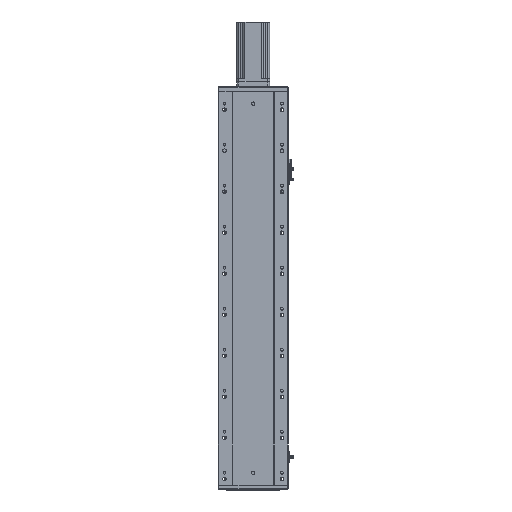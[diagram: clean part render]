
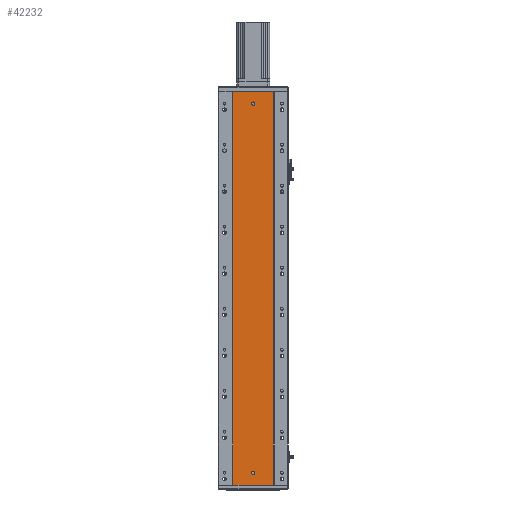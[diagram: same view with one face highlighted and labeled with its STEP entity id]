
A CAD part, front view. The second image highlights one B-rep face of the part: STEP entity #42232.
In plain terms, the highlighted planar face has unit normal (0, -1, 0).
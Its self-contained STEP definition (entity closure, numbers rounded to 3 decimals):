
#138 = ORIENTED_EDGE ( 'NONE', *, *, #33743, .F. ) ;
#353 = FACE_OUTER_BOUND ( 'NONE', #14781, .T. ) ;
#3615 = CARTESIAN_POINT ( 'NONE',  ( 0., 79.476, 0. ) ) ;
#3934 = DIRECTION ( 'NONE',  ( 0., 0., -1. ) ) ;
#4540 = AXIS2_PLACEMENT_3D ( 'NONE', #54536, #37644, #9053 ) ;
#4953 = B_SPLINE_CURVE_WITH_KNOTS ( 'NONE', 3,
 ( #33627, #73243, #17644, #6282 ),
 .UNSPECIFIED., .F., .F.,
 ( 4, 4 ),
 ( 0., 1. ),
 .UNSPECIFIED. ) ;
#5054 = CARTESIAN_POINT ( 'NONE',  ( 86.97, 79.476, 960. ) ) ;
#5846 = AXIS2_PLACEMENT_3D ( 'NONE', #16061, #61585, #71693 ) ;
#6282 = CARTESIAN_POINT ( 'NONE',  ( 86.97, 79.476, 0. ) ) ;
#9053 = DIRECTION ( 'NONE',  ( 0., 0., -1. ) ) ;
#9347 = EDGE_CURVE ( 'NONE', #32732, #33971, #32762, .T. ) ;
#11812 = ORIENTED_EDGE ( 'NONE', *, *, #43553, .T. ) ;
#14244 = CARTESIAN_POINT ( 'NONE',  ( 86.97, 79.476, 0. ) ) ;
#14781 = EDGE_LOOP ( 'NONE', ( #11812, #138, #59170, #42990 ) ) ;
#15110 = VERTEX_POINT ( 'NONE', #28909 ) ;
#15359 = FACE_BOUND ( 'NONE', #22051, .T. ) ;
#16061 = CARTESIAN_POINT ( 'NONE',  ( 136.47, 79.476, 30. ) ) ;
#16618 = ORIENTED_EDGE ( 'NONE', *, *, #45530, .F. ) ;
#17644 = CARTESIAN_POINT ( 'NONE',  ( 86.97, 79.476, 320. ) ) ;
#20211 = DIRECTION ( 'NONE',  ( 0., 0., -1. ) ) ;
#21741 = CARTESIAN_POINT ( 'NONE',  ( 185.97, 79.476, 320. ) ) ;
#22051 = EDGE_LOOP ( 'NONE', ( #48965, #61475 ) ) ;
#22168 = CARTESIAN_POINT ( 'NONE',  ( 136.47, 79.476, 34. ) ) ;
#23352 = AXIS2_PLACEMENT_3D ( 'NONE', #36911, #71535, #20211 ) ;
#23850 = VERTEX_POINT ( 'NONE', #49691 ) ;
#25086 = CIRCLE ( 'NONE', #5846, 4. ) ;
#27385 = VERTEX_POINT ( 'NONE', #67373 ) ;
#28909 = CARTESIAN_POINT ( 'NONE',  ( 136.47, 79.476, 926. ) ) ;
#29234 = LINE ( 'NONE', #3615, #59449 ) ;
#29870 = DIRECTION ( 'NONE',  ( 0., 0., 1. ) ) ;
#31860 = VERTEX_POINT ( 'NONE', #22168 ) ;
#32732 = VERTEX_POINT ( 'NONE', #5054 ) ;
#32762 = LINE ( 'NONE', #35651, #58567 ) ;
#33627 = CARTESIAN_POINT ( 'NONE',  ( 86.97, 79.476, 960. ) ) ;
#33743 = EDGE_CURVE ( 'NONE', #33971, #27385, #59619, .T. ) ;
#33951 = CARTESIAN_POINT ( 'NONE',  ( 185.97, 79.476, 960. ) ) ;
#33971 = VERTEX_POINT ( 'NONE', #48582 ) ;
#34056 = EDGE_CURVE ( 'NONE', #15110, #71656, #70189, .T. ) ;
#35601 = PLANE ( 'NONE',  #69836 ) ;
#35651 = CARTESIAN_POINT ( 'NONE',  ( 0., 79.476, 960. ) ) ;
#36911 = CARTESIAN_POINT ( 'NONE',  ( 136.47, 79.476, 930. ) ) ;
#37543 = EDGE_CURVE ( 'NONE', #23850, #31860, #48021, .T. ) ;
#37644 = DIRECTION ( 'NONE',  ( 0., -1., 0. ) ) ;
#42124 = EDGE_CURVE ( 'NONE', #32732, #43515, #4953, .T. ) ;
#42232 = ADVANCED_FACE ( 'NONE', ( #62509, #15359, #353 ), #35601, .F. ) ;
#42990 = ORIENTED_EDGE ( 'NONE', *, *, #42124, .T. ) ;
#43515 = VERTEX_POINT ( 'NONE', #14244 ) ;
#43553 = EDGE_CURVE ( 'NONE', #43515, #27385, #29234, .T. ) ;
#45530 = EDGE_CURVE ( 'NONE', #71656, #15110, #69767, .T. ) ;
#46478 = EDGE_LOOP ( 'NONE', ( #57730, #16618 ) ) ;
#47538 = AXIS2_PLACEMENT_3D ( 'NONE', #71652, #71889, #3934 ) ;
#48021 = CIRCLE ( 'NONE', #4540, 4. ) ;
#48582 = CARTESIAN_POINT ( 'NONE',  ( 185.97, 79.476, 960. ) ) ;
#48822 = CARTESIAN_POINT ( 'NONE',  ( 136.47, 79.476, 934. ) ) ;
#48965 = ORIENTED_EDGE ( 'NONE', *, *, #37543, .F. ) ;
#49691 = CARTESIAN_POINT ( 'NONE',  ( 136.47, 79.476, 26. ) ) ;
#54536 = CARTESIAN_POINT ( 'NONE',  ( 136.47, 79.476, 30. ) ) ;
#54818 = DIRECTION ( 'NONE',  ( 1., 0., 0. ) ) ;
#57572 = EDGE_CURVE ( 'NONE', #31860, #23850, #25086, .T. ) ;
#57730 = ORIENTED_EDGE ( 'NONE', *, *, #34056, .F. ) ;
#58183 = DIRECTION ( 'NONE',  ( 0., 1., 0. ) ) ;
#58567 = VECTOR ( 'NONE', #63149, 1000. ) ;
#59170 = ORIENTED_EDGE ( 'NONE', *, *, #9347, .F. ) ;
#59449 = VECTOR ( 'NONE', #54818, 1000. ) ;
#59619 = B_SPLINE_CURVE_WITH_KNOTS ( 'NONE', 3,
 ( #33951, #73576, #21741, #67181 ),
 .UNSPECIFIED., .F., .F.,
 ( 4, 4 ),
 ( 0., 1. ),
 .UNSPECIFIED. ) ;
#61475 = ORIENTED_EDGE ( 'NONE', *, *, #57572, .F. ) ;
#61585 = DIRECTION ( 'NONE',  ( 0., -1., 0. ) ) ;
#62509 = FACE_BOUND ( 'NONE', #46478, .T. ) ;
#63149 = DIRECTION ( 'NONE',  ( 1., 0., 0. ) ) ;
#67181 = CARTESIAN_POINT ( 'NONE',  ( 185.97, 79.476, 0. ) ) ;
#67373 = CARTESIAN_POINT ( 'NONE',  ( 185.97, 79.476, 0. ) ) ;
#69033 = CARTESIAN_POINT ( 'NONE',  ( 0., 79.476, 960. ) ) ;
#69767 = CIRCLE ( 'NONE', #47538, 4. ) ;
#69836 = AXIS2_PLACEMENT_3D ( 'NONE', #69033, #58183, #29870 ) ;
#70189 = CIRCLE ( 'NONE', #23352, 4. ) ;
#71535 = DIRECTION ( 'NONE',  ( 0., -1., 0. ) ) ;
#71652 = CARTESIAN_POINT ( 'NONE',  ( 136.47, 79.476, 930. ) ) ;
#71656 = VERTEX_POINT ( 'NONE', #48822 ) ;
#71693 = DIRECTION ( 'NONE',  ( 0., 0., -1. ) ) ;
#71889 = DIRECTION ( 'NONE',  ( 0., -1., 0. ) ) ;
#73243 = CARTESIAN_POINT ( 'NONE',  ( 86.97, 79.476, 640. ) ) ;
#73576 = CARTESIAN_POINT ( 'NONE',  ( 185.97, 79.476, 640. ) ) ;
